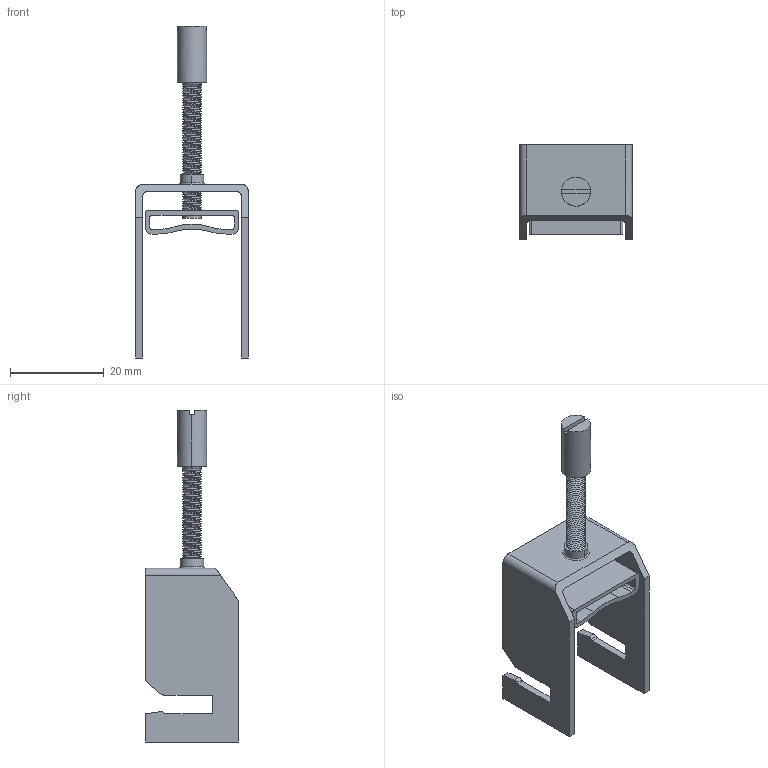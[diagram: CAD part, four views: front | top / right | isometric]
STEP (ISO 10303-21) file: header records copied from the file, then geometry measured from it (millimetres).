
FILE_DESCRIPTION((''),'2;1');
FILE_NAME('ZCC20_ASM_1_ASM','2025-04-18T16:57:09',('28538'),(''),'CREO PARAMETRIC BY PTC INC, 2018050','CREO PARAMETRIC BY PTC INC, 2018050','');
FILE_SCHEMA(('CONFIG_CONTROL_DESIGN'));
Length unit declared in the file: millimetre
Products named in the file (5): ZCC20-1_1_1; ZCC20-2_1_1; ZCC20-3_1_1; ASM0001_ASM_1_1_ASM_1_ASM; ZCC20_ASM_1_ASM
Assembly tree (4 placements, depth 3):
  ZCC20_ASM_1_ASM
    ASM0001_ASM_1_1_ASM_1_ASM
      ZCC20-1_1_1
      ZCC20-2_1_1
      ZCC20-3_1_1
Bounding box: 24 x 20 x 70.74 mm (x, y, z)
Volume: 3913.5 mm3; surface area: 6386.4 mm2
Topology: 3 solids, 3 shells, 143 faces, 504 edges, 369 vertices
Faces by surface type: cylinder 59, plane 46, bspline 34, torus 4
Entity records: 13632 total; most frequent: CARTESIAN_POINT 9508, ORIENTED_EDGE 1008, DIRECTION 625, EDGE_CURVE 504, VERTEX_POINT 369, AXIS2_PLACEMENT_3D 214, B_SPLINE_CURVE_WITH_KNOTS 214, VECTOR 197
